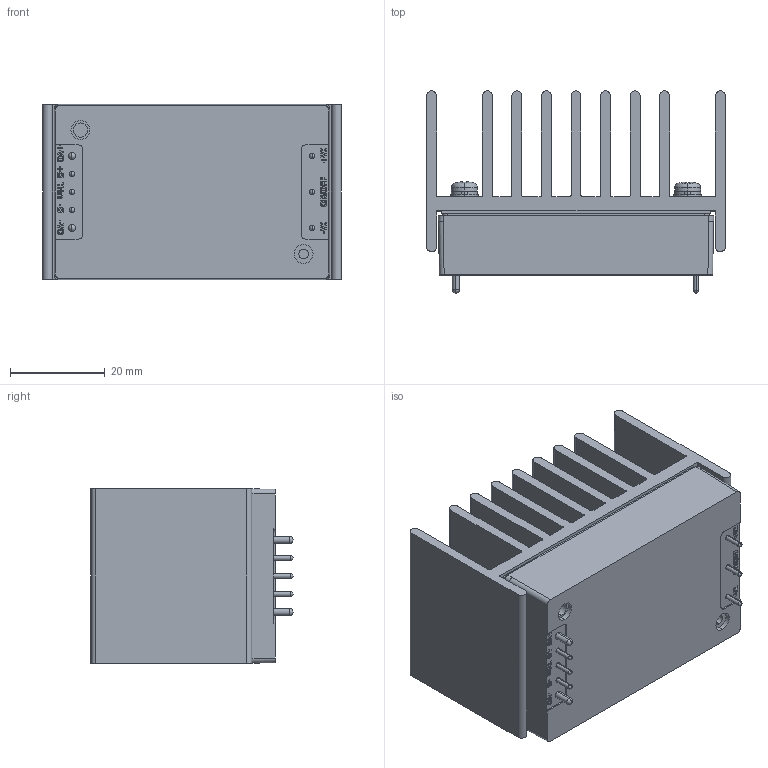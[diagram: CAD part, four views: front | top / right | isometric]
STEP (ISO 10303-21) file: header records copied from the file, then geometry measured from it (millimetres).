
FILE_DESCRIPTION (( 'STEP AP214' ), '1' );
FILE_NAME ('MRZI75+HS7(20241022).STEP', '2024-10-22T06:55:41', ( '' ), ( '' ), 'SwSTEP 2.0', 'SolidWorks 2021', '' );
FILE_SCHEMA (( 'AUTOMOTIVE_DESIGN' ));
Length unit declared in the file: millimetre
Products named in the file (6): MRZI75 鋁基板(20211125)_CASE 開口階梯用; Hero_20191120-01(086-HS-46&47&48_1版)_1.0in(086-HS-48); MRZI75+HS7(20241022); MISUMI-NSET3-12; MRZI75 CASE(081-CMRZI-4)(R09)_欣德(20240507)-印花用; MTQZ50 散熱片導熱矽膠_開口階梯CASE用
Assembly tree (6 placements, depth 2):
  MRZI75+HS7(20241022)
    MRZI75 CASE(081-CMRZI-4)(R09)_欣德(20240507)-印花用
    MRZI75 鋁基板(20211125)_CASE 開口階梯用
    MTQZ50 散熱片導熱矽膠_開口階梯CASE用
    Hero_20191120-01(086-HS-46&47&48_1版)_1.0in(086-HS-48)
    MISUMI-NSET3-12  x2
Bounding box: 63.2 x 42.75 x 37.14 mm (x, y, z)
Volume: 52600.1 mm3; surface area: 38261.1 mm2
Topology: 8 solids, 8 shells, 1531 faces, 3886 edges, 2577 vertices
Faces by surface type: plane 1231, cylinder 154, bspline 100, cone 22, sphere 20, torus 4
Entity records: 61528 total; most frequent: CARTESIAN_POINT 12451, ORIENTED_EDGE 7504, DIRECTION 6658, EDGE_CURVE 3752, LINE 3206, VECTOR 3206, VERTEX_POINT 2495, EDGE_LOOP 1739
